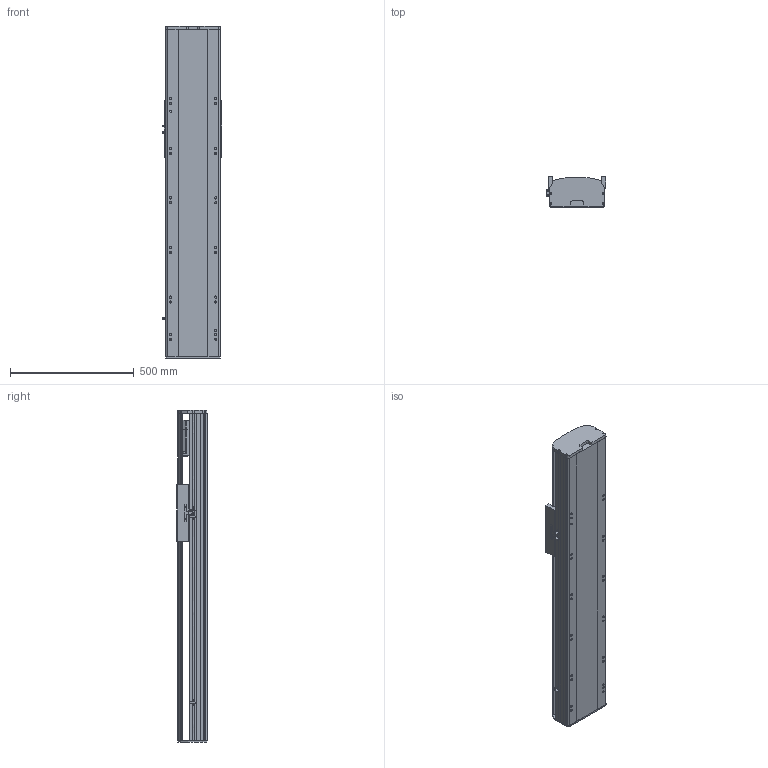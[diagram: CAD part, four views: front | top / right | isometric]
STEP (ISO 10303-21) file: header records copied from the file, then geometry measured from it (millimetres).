
FILE_DESCRIPTION (( 'STEP AP214' ), '1' );
FILE_NAME ('RTH22-XX-750-B-M75-C4.STEP', '2025-10-24T10:30:32', ( 'Microsoft' ), ( 'Microsoft' ), 'SwSTEP 2.0', 'SolidWorks 2018', '' );
FILE_SCHEMA (( 'AUTOMOTIVE_DESIGN' ));
Length unit declared in the file: millimetre
Products named in the file (9): N_RTH22-B-008萇儂啣^RTH22-XX-XX-B-M75-C4; N_750W萇儂^RTH22-XX-XX-B-M75-C4; N_RTH22-GY-001耜裔^RTH22-XX-XX-B-M75-C4; N_RTH22-B-011菁釱^RTH22-XX-XX-B-M75-C4; RTH22-XX-750-B-M75-C4; N_RTH22-B-007奻裔^RTH22-XX-XX-B-M75-C4; N_RTH22-E-004-SFS25賑釱^RTH22-XX-XX-B-M75-C4; N_RTH22-GY-013外置感应片^RTH22-XX-XX-B-M75-C4; N_OMRON EE-SX672 传感器^RTH22-XX-XX-B-M75-C4
Assembly tree (10 placements, depth 2):
  RTH22-XX-750-B-M75-C4
    N_RTH22-B-011菁釱^RTH22-XX-XX-B-M75-C4
    N_RTH22-GY-001耜裔^RTH22-XX-XX-B-M75-C4
    N_750W萇儂^RTH22-XX-XX-B-M75-C4
    N_RTH22-B-008萇儂啣^RTH22-XX-XX-B-M75-C4
    N_RTH22-B-007奻裔^RTH22-XX-XX-B-M75-C4
    N_OMRON EE-SX672 传感器^RTH22-XX-XX-B-M75-C4  x3
    N_RTH22-GY-013外置感应片^RTH22-XX-XX-B-M75-C4
    N_RTH22-E-004-SFS25賑釱^RTH22-XX-XX-B-M75-C4
Bounding box: 238.5 x 122 x 1340 mm (x, y, z)
Volume: 18563870.2 mm3; surface area: 1923899.2 mm2
Topology: 10 solids, 10 shells, 1515 faces, 4150 edges, 2683 vertices
Faces by surface type: plane 752, cylinder 430, bspline 279, cone 54
Entity records: 37433 total; most frequent: CARTESIAN_POINT 11697, ORIENTED_EDGE 5284, DIRECTION 4940, EDGE_CURVE 2642, VERTEX_POINT 1719, AXIS2_PLACEMENT_3D 1654, LINE 1632, VECTOR 1632
